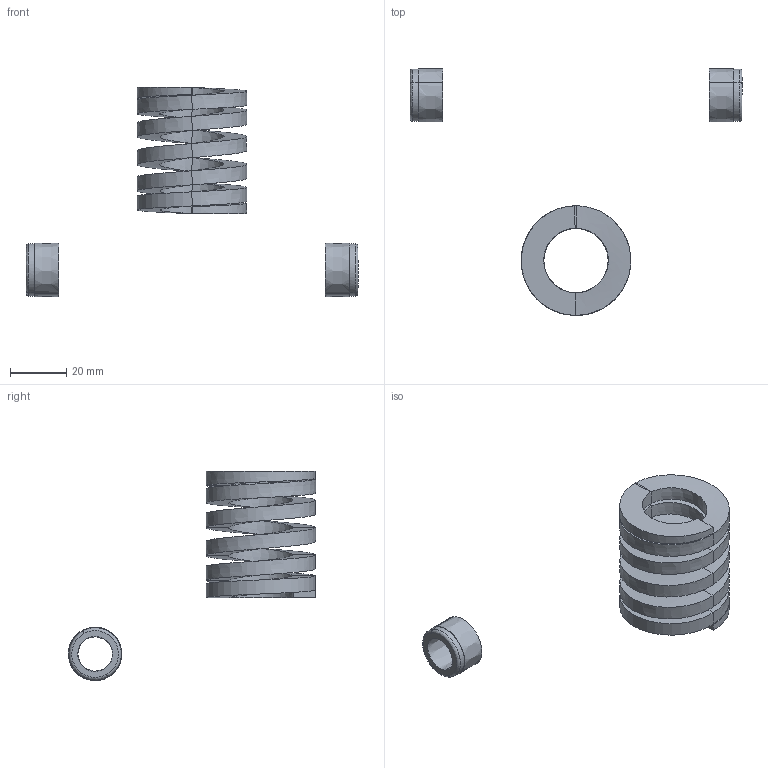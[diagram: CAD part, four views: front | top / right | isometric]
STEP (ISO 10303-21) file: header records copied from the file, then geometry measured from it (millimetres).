
FILE_DESCRIPTION (( 'STEP AP214' ), '1' );
FILE_NAME ('KTU-200WJ-GS-50.STEP', '2018-08-30T07:59:27', ( '' ), ( '' ), 'SwSTEP 2.0', 'SolidWorks 2010', '' );
FILE_SCHEMA (( 'AUTOMOTIVE_DESIGN' ));
Length unit declared in the file: millimetre
Products named in the file (1): KTU-200WJ-GS-50
Bounding box: 118.2 x 88 x 74.5 mm (x, y, z)
Volume: 26115.7 mm3; surface area: 17909.1 mm2
Topology: 3 solids, 3 shells, 74 faces, 230 edges, 164 vertices
Faces by surface type: bspline 64, plane 10
Entity records: 14468 total; most frequent: CARTESIAN_POINT 12847, ORIENTED_EDGE 460, EDGE_CURVE 230, VERTEX_POINT 164, B_SPLINE_CURVE_WITH_KNOTS 164, DIRECTION 88, EDGE_LOOP 80, ADVANCED_FACE 74
